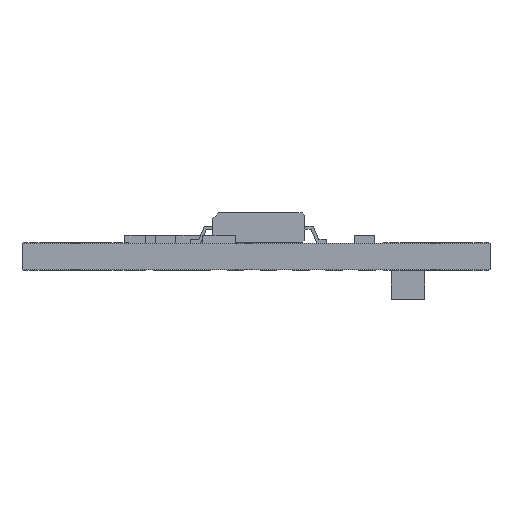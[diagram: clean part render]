
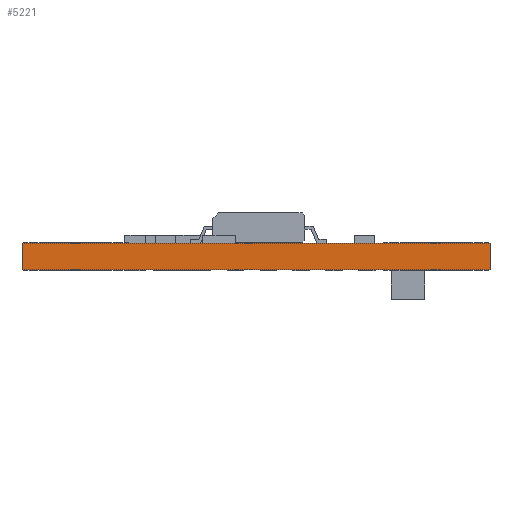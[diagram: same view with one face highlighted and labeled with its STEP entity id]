
A CAD part, front view. The second image highlights one B-rep face of the part: STEP entity #5221.
In plain terms, the highlighted planar face has unit normal (0, -1, 0).
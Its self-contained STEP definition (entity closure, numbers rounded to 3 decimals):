
#434 = DIRECTION ( 'NONE',  ( 0., 1., 0. ) ) ;
#812 = VECTOR ( 'NONE', #13634, 1000. ) ;
#1794 = VERTEX_POINT ( 'NONE', #10738 ) ;
#1990 = ORIENTED_EDGE ( 'NONE', *, *, #6064, .F. ) ;
#2436 = AXIS2_PLACEMENT_3D ( 'NONE', #18560, #434, #11957 ) ;
#2577 = CARTESIAN_POINT ( 'NONE',  ( 19.25, -9.248, -1.6 ) ) ;
#3696 = CARTESIAN_POINT ( 'NONE',  ( -9.25, -9.248, -1.6 ) ) ;
#4713 = ORIENTED_EDGE ( 'NONE', *, *, #17627, .T. ) ;
#5133 = CARTESIAN_POINT ( 'NONE',  ( -9.25, -9.248, -1.6 ) ) ;
#5221 = ADVANCED_FACE ( 'NONE', ( #5484 ), #10300, .F. ) ;
#5484 = FACE_OUTER_BOUND ( 'NONE', #15994, .T. ) ;
#5968 = CARTESIAN_POINT ( 'NONE',  ( 19.25, -9.248, 0. ) ) ;
#6064 = EDGE_CURVE ( 'NONE', #20280, #6097, #9012, .T. ) ;
#6097 = VERTEX_POINT ( 'NONE', #16930 ) ;
#8535 = EDGE_CURVE ( 'NONE', #18125, #6097, #19601, .T. ) ;
#9012 = LINE ( 'NONE', #3696, #812 ) ;
#9402 = CARTESIAN_POINT ( 'NONE',  ( 19.25, -9.248, 0. ) ) ;
#10300 = PLANE ( 'NONE',  #2436 ) ;
#10738 = CARTESIAN_POINT ( 'NONE',  ( 19.25, -9.248, -1.6 ) ) ;
#10780 = DIRECTION ( 'NONE',  ( -1., 0., 0. ) ) ;
#10784 = VECTOR ( 'NONE', #16091, 1000. ) ;
#11542 = VECTOR ( 'NONE', #10780, 1000. ) ;
#11853 = VECTOR ( 'NONE', #16695, 1000. ) ;
#11957 = DIRECTION ( 'NONE',  ( 0., 0., 1. ) ) ;
#12064 = LINE ( 'NONE', #2577, #11542 ) ;
#13634 = DIRECTION ( 'NONE',  ( 0., 0., 1. ) ) ;
#13823 = ORIENTED_EDGE ( 'NONE', *, *, #19566, .F. ) ;
#15994 = EDGE_LOOP ( 'NONE', ( #16261, #1990, #13823, #4713 ) ) ;
#16091 = DIRECTION ( 'NONE',  ( -1., 0., 0. ) ) ;
#16261 = ORIENTED_EDGE ( 'NONE', *, *, #8535, .T. ) ;
#16306 = LINE ( 'NONE', #19868, #11853 ) ;
#16695 = DIRECTION ( 'NONE',  ( 0., 0., 1. ) ) ;
#16930 = CARTESIAN_POINT ( 'NONE',  ( -9.25, -9.248, 0. ) ) ;
#17627 = EDGE_CURVE ( 'NONE', #1794, #18125, #16306, .T. ) ;
#18125 = VERTEX_POINT ( 'NONE', #9402 ) ;
#18560 = CARTESIAN_POINT ( 'NONE',  ( 19.25, -9.248, -1.6 ) ) ;
#19566 = EDGE_CURVE ( 'NONE', #1794, #20280, #12064, .T. ) ;
#19601 = LINE ( 'NONE', #5968, #10784 ) ;
#19868 = CARTESIAN_POINT ( 'NONE',  ( 19.25, -9.248, -1.6 ) ) ;
#20280 = VERTEX_POINT ( 'NONE', #5133 ) ;
